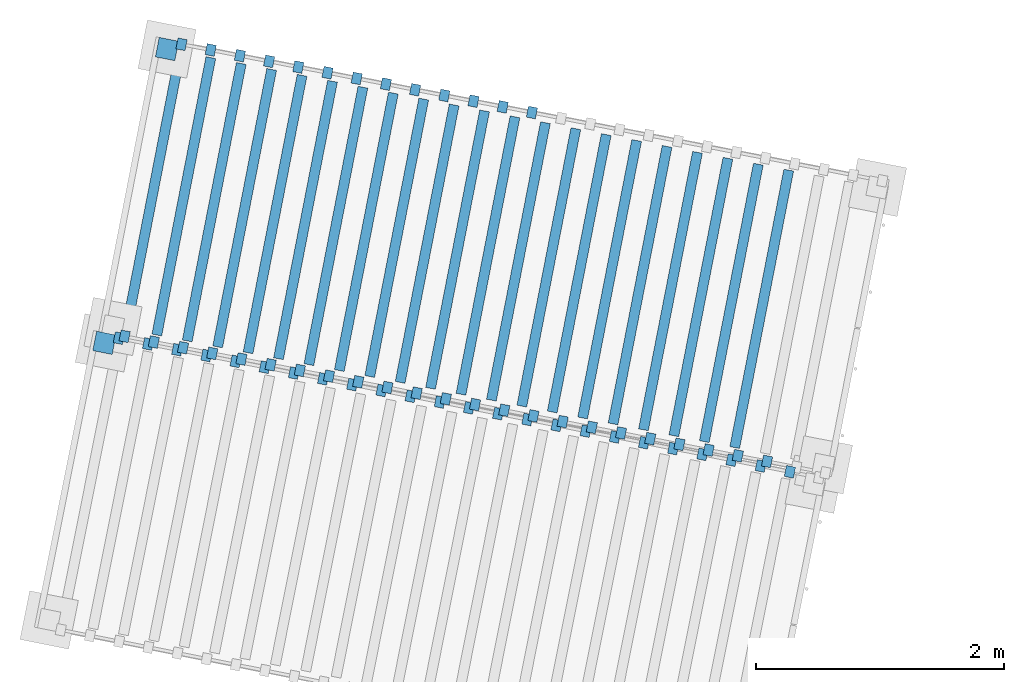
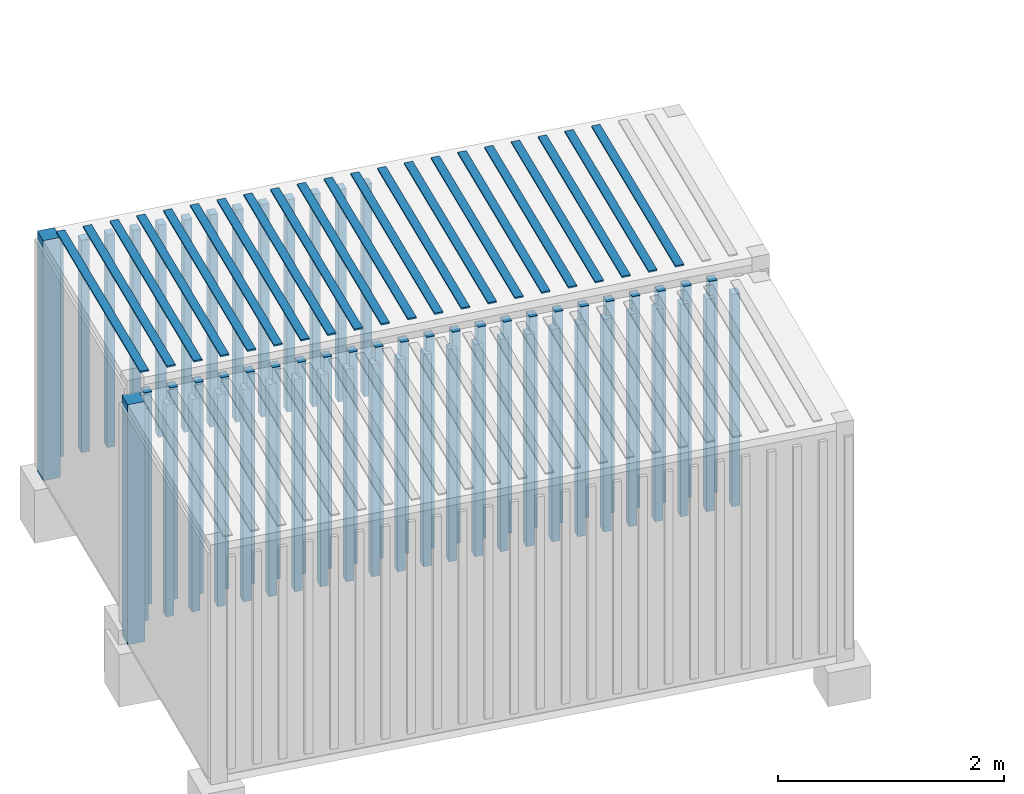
# One storey, part 82 of 131: 83 members, 2 elements without a shape of their own.
"""IFC4 building model written with IfcOpenShell, lengths in metres."""

import ifcopenshell
import ifcopenshell.guid

model = None  # the IFC model being written
_history = None  # IfcOwnerHistory: only IFC2X3 demands one
_inside = {}  # id of a spatial element -> (the spatial element, [elements in it])
_under = {}  # id of a project, library or spatial element -> (it, [spatial elements below it])
_declared = {}  # id of a project -> (the project, [libraries it declares])
_typed = {}  # id of a type object -> (the type object, [elements of that type])
_made_of = {}  # id of a material, layer set ... -> (it, [elements and type objects made of it])


def new_model(schema):
    """Start an empty IFC model of exactly this schema.

    Asked for "IFC4X3", IfcOpenShell would pick the latest addendum, in which some entities
    have other attributes; the version numbers below select the first issue.
    IFC2X3 requires an IfcOwnerHistory on every rooted entity: one is made here for all.
    """
    global model, _history
    if schema == "IFC4X3":
        model = ifcopenshell.file(schema_version=(4, 3, 0, 0))
    else:
        model = ifcopenshell.file(schema=schema)
    _inside.clear()
    _under.clear()
    _declared.clear()
    _typed.clear()
    _made_of.clear()
    _history = None
    if model.schema == "IFC2X3":
        org = make("IfcOrganization", Name="unknown")
        user = make(
            "IfcPersonAndOrganization",
            ThePerson=make("IfcPerson", FamilyName="unknown"),
            TheOrganization=org,
        )
        app = make(
            "IfcApplication",
            ApplicationDeveloper=org,
            Version="unknown",
            ApplicationFullName="unknown",
            ApplicationIdentifier="unknown",
        )
        _history = make(
            "IfcOwnerHistory",
            OwningUser=user,
            OwningApplication=app,
            ChangeAction="ADDED",
            CreationDate=0,
        )
    return model


def make(cls, **values):
    """One entity of the class cls with the attributes given. An attribute that is None is left unset."""
    return model.create_entity(
        cls, **{name: value for name, value in values.items() if value is not None}
    )


def rooted(cls, **values):
    """An entity with a GlobalId (a new one), such as an element, a storey or a relation."""
    return make(cls, GlobalId=ifcopenshell.guid.new(), OwnerHistory=_history, **values)


def si_unit(unit_type, name, prefix=None):
    """IfcSIUnit, for example si_unit("LENGTHUNIT", "METRE", prefix="MILLI")."""
    return make("IfcSIUnit", UnitType=unit_type, Prefix=prefix, Name=name)


def assignment(units):
    """IfcUnitAssignment: the units of a project."""
    return None if units is None else make("IfcUnitAssignment", Units=units)


def point(xyz):
    """IfcCartesianPoint."""
    return None if xyz is None else make("IfcCartesianPoint", Coordinates=xyz)


def direction(xyz):
    """IfcDirection."""
    return None if xyz is None else make("IfcDirection", DirectionRatios=xyz)


def frame(location, z_axis=None, x_axis=None):
    """IfcAxis2Placement3D, a coordinate frame: its origin and axes. An axis left out is left unset."""
    return make(
        "IfcAxis2Placement3D",
        Location=point(location),
        Axis=direction(z_axis),
        RefDirection=direction(x_axis),
    )


def origin_with_axes():
    """The frame at (0, 0, 0) with the z axis (0, 0, 1) and the x axis (1, 0, 0) written out."""
    return frame((0.0, 0.0, 0.0), z_axis=(0.0, 0.0, 1.0), x_axis=(1.0, 0.0, 0.0))


def place(relative_to, where):
    """IfcLocalPlacement: puts the frame where relative to a parent placement (None: the world)."""
    return make(
        "IfcLocalPlacement", PlacementRelTo=relative_to, RelativePlacement=where
    )


def context(
    kind, dimensions, precision=None, world=None, true_north=None, identifier=None
):
    """IfcGeometricRepresentationContext, for example the 3D "Model" context."""
    return make(
        "IfcGeometricRepresentationContext",
        ContextIdentifier=identifier,
        ContextType=kind,
        CoordinateSpaceDimension=dimensions,
        Precision=precision,
        WorldCoordinateSystem=world,
        TrueNorth=true_north,
    )


def subcontext(parent, identifier, kind, view, scale=None):
    """IfcGeometricRepresentationSubContext, for example "Body" below "Model"."""
    return make(
        "IfcGeometricRepresentationSubContext",
        ContextIdentifier=identifier,
        ContextType=kind,
        ParentContext=parent,
        TargetScale=scale,
        TargetView=view,
    )


def project(units=None, contexts=None):
    """IfcProject with its units and contexts."""
    return rooted(
        "IfcProject",
        Name="project",
        RepresentationContexts=contexts,
        UnitsInContext=assignment(units),
    )


def spatial(cls, under=None, at=None, **own):
    """A site, building, storey or space (cls), placed at a placement, below another one or the project."""
    s = rooted(cls, ObjectPlacement=at, **own)
    if under is not None:
        _under.setdefault(under.id(), (under, []))[1].append(s)
    return s


def polyline(points):
    """IfcPolyline through the points."""
    return make("IfcPolyline", Points=[point(p) for p in points])


def outline(outer, holes=None, kind="AREA"):
    """IfcArbitraryClosedProfileDef: a profile drawn as a closed curve; with holes, ...WithVoids."""
    if holes is None:
        return make("IfcArbitraryClosedProfileDef", ProfileType=kind, OuterCurve=outer)
    return make(
        "IfcArbitraryProfileDefWithVoids",
        ProfileType=kind,
        OuterCurve=outer,
        InnerCurves=holes,
    )


def extrude(swept, where, along, depth):
    """IfcExtrudedAreaSolid: the profile swept, set in the frame where, extruded along a direction by depth."""
    return make(
        "IfcExtrudedAreaSolid",
        SweptArea=swept,
        Position=where,
        ExtrudedDirection=direction(along),
        Depth=depth,
    )


def shape(context_of_items, identifier, shape_type, items):
    """IfcShapeRepresentation: the items that make up one representation, for example the "Body"."""
    return make(
        "IfcShapeRepresentation",
        ContextOfItems=context_of_items,
        RepresentationIdentifier=identifier,
        RepresentationType=shape_type,
        Items=items,
    )


def material(Name=None, Category=None):
    """IfcMaterial."""
    return make("IfcMaterial", Name=Name, Category=Category)


def made_of(thing, what):
    """Note that an element or type object is made of a material, layer set ...; save() writes the relation."""
    if what is not None:
        _made_of.setdefault(what.id(), (what, []))[1].append(thing)
    return thing


def element(
    cls,
    number,
    at=None,
    inside=None,
    cuts=None,
    type_object=None,
    material=None,
    context=None,
    identifier="Body",
    shape_type=None,
    held_by="IfcProductDefinitionShape",
    body=None,
    shapes=None,
    **own,
):
    """One element of the class cls, such as IfcWall. Its Tag is "e" and its number.

    at: its placement. inside: the storey or other place that contains it. cuts: it is an
    opening in that element (IfcRelVoidsElement). A single representation is given by context,
    identifier, shape_type and body (its items); several are given by shapes. held_by: the class
    of the entity that holds the representations. save() writes the other relations.
    """
    e = rooted(cls, Tag="e%d" % number, ObjectPlacement=at, **own)
    if body is not None:
        shapes = [shape(context, identifier, shape_type, body)]
    if shapes is not None:
        e.Representation = make(held_by, Representations=shapes)
    if inside is not None:
        _inside.setdefault(inside.id(), (inside, []))[1].append(e)
    if cuts is not None:
        rooted(
            "IfcRelVoidsElement", RelatingBuildingElement=cuts, RelatedOpeningElement=e
        )
    if type_object is not None:
        _typed.setdefault(type_object.id(), (type_object, []))[1].append(e)
    return made_of(e, material)


def aggregate(whole, parts):
    """IfcRelAggregates: a whole, such as a stair, and the parts it consists of."""
    return rooted("IfcRelAggregates", RelatingObject=whole, RelatedObjects=parts)


def save(model, path):
    """Write the relations noted so far, then the file.

    IfcRelAggregates (storeys below a building ...), IfcRelContainedInSpatialStructure (elements
    in a storey), IfcRelDefinesByType, IfcRelAssociatesMaterial and IfcRelDeclares: one each for
    every whole, place, type object, material and project.
    """
    for whole, parts in _under.values():
        aggregate(whole, parts)
    for where, things in _inside.values():
        rooted(
            "IfcRelContainedInSpatialStructure",
            RelatedElements=things,
            RelatingStructure=where,
        )
    for kind, things in _typed.values():
        rooted("IfcRelDefinesByType", RelatedObjects=things, RelatingType=kind)
    for what, things in _made_of.values():
        rooted("IfcRelAssociatesMaterial", RelatedObjects=things, RelatingMaterial=what)
    for by, libraries in _declared.values():
        rooted("IfcRelDeclares", RelatingContext=by, RelatedDefinitions=libraries)
    model.write(path)


model = new_model("IFC4")

# Units and contexts
model_context = context("Model", 3, precision=1e-05, world=origin_with_axes(), true_north=direction((0.0, 1.0)))
body_context = subcontext(model_context, "Body", "Model", "MODEL_VIEW")
ifc_project = project(units=[si_unit("AREAUNIT", "SQUARE_METRE"), si_unit("VOLUMEUNIT", "CUBIC_METRE"), si_unit("LENGTHUNIT", "METRE")], contexts=[model_context])

# Site, building, storey
site_placement = place(None, origin_with_axes())
site = spatial("IfcSite", under=ifc_project, at=site_placement, Name="Lares · Rua das Mercês · artigo 4771")
building_placement = place(site_placement, frame((15.0, 9.7, 14.65), z_axis=(0.0, 0.0, 1.0), x_axis=(0.989015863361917, -0.147809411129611, 0.0)))
building = spatial("IfcBuilding", under=site, at=building_placement, Name="Casa Sobreposta")
storey_placement = place(building_placement, origin_with_axes())
storey = spatial("IfcBuildingStorey", under=building, at=storey_placement, Name="00 · Habitação e estacionamento", Elevation=14.65)

# Assembly, members
assembly_1_placement = place(storey_placement, frame((-14.4335953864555, 9.04888612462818, 0.0), z_axis=(0.0, 0.0, 1.0), x_axis=(0.999032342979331, -0.0439815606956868, 0.0)))
assembly_1 = element("IfcElementAssembly", 1, at=assembly_1_placement, inside=storey, Name="Contentor existente 1 · 6 m", ObjectType="EXISTING_SHIPPING_CONTAINER", PredefinedType="USERDEFINED")
ifc_material_1 = material(Name="Contentor · pintura 1", Category="steel")
member_1_placement = place(assembly_1_placement, frame((0.0, 0.0, -1.01314181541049), z_axis=(0.0, 0.0, 1.0), x_axis=(1.0, 0.0, 0.0)))
member_1 = element("IfcMember", 2, at=member_1_placement, material=ifc_material_1, Name="Contentor · canto", context=body_context, shape_type="SweptSolid", body=[
    extrude(outline(polyline([(0.16, 2.28), (0.16, 2.44), (0.0, 2.44), (0.0, 2.28), (0.16, 2.28)])), origin_with_axes(), (0.0, 0.0, 1.0), 2.59),
])
member_2_placement = place(assembly_1_placement, frame((0.0, 0.0, -0.863141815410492), z_axis=(0.0, 0.0, 1.0), x_axis=(1.0, 0.0, 0.0)))
member_2 = element("IfcMember", 3, at=member_2_placement, material=ifc_material_1, Name="Contentor · nervura lateral", context=body_context, shape_type="SweptSolid", body=[
    extrude(outline(polyline([(0.225, -0.025), (0.225, 0.065), (0.15, 0.065), (0.15, -0.025), (0.225, -0.025)])), origin_with_axes(), (0.0, 0.0, 1.0), 2.29),
])
member_3_placement = place(assembly_1_placement, frame((0.0, 0.0, -0.863141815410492), z_axis=(0.0, 0.0, 1.0), x_axis=(1.0, 0.0, 0.0)))
member_3 = element("IfcMember", 4, at=member_3_placement, material=ifc_material_1, Name="Contentor · nervura lateral", context=body_context, shape_type="SweptSolid", body=[
    extrude(outline(polyline([(0.465, -0.025), (0.465, 0.065), (0.39, 0.065), (0.39, -0.025), (0.465, -0.025)])), origin_with_axes(), (0.0, 0.0, 1.0), 2.29),
])
member_4_placement = place(assembly_1_placement, frame((0.0, 0.0, -0.863141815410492), z_axis=(0.0, 0.0, 1.0), x_axis=(1.0, 0.0, 0.0)))
member_4 = element("IfcMember", 5, at=member_4_placement, material=ifc_material_1, Name="Contentor · nervura lateral", context=body_context, shape_type="SweptSolid", body=[
    extrude(outline(polyline([(0.705, -0.025), (0.705, 0.065), (0.63, 0.065), (0.63, -0.025), (0.705, -0.025)])), origin_with_axes(), (0.0, 0.0, 1.0), 2.29),
])
member_5_placement = place(assembly_1_placement, frame((0.0, 0.0, -0.863141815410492), z_axis=(0.0, 0.0, 1.0), x_axis=(1.0, 0.0, 0.0)))
member_5 = element("IfcMember", 6, at=member_5_placement, material=ifc_material_1, Name="Contentor · nervura lateral", context=body_context, shape_type="SweptSolid", body=[
    extrude(outline(polyline([(0.945, -0.025), (0.945, 0.065), (0.87, 0.065), (0.87, -0.025), (0.945, -0.025)])), origin_with_axes(), (0.0, 0.0, 1.0), 2.29),
])
member_6_placement = place(assembly_1_placement, frame((0.0, 0.0, -0.863141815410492), z_axis=(0.0, 0.0, 1.0), x_axis=(1.0, 0.0, 0.0)))
member_6 = element("IfcMember", 7, at=member_6_placement, material=ifc_material_1, Name="Contentor · nervura lateral", context=body_context, shape_type="SweptSolid", body=[
    extrude(outline(polyline([(1.185, -0.025), (1.185, 0.065), (1.11, 0.065), (1.11, -0.025), (1.185, -0.025)])), origin_with_axes(), (0.0, 0.0, 1.0), 2.29),
])
member_7_placement = place(assembly_1_placement, frame((0.0, 0.0, -0.863141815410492), z_axis=(0.0, 0.0, 1.0), x_axis=(1.0, 0.0, 0.0)))
member_7 = element("IfcMember", 8, at=member_7_placement, material=ifc_material_1, Name="Contentor · nervura lateral", context=body_context, shape_type="SweptSolid", body=[
    extrude(outline(polyline([(1.425, -0.025), (1.425, 0.065), (1.35, 0.065), (1.35, -0.025), (1.425, -0.025)])), origin_with_axes(), (0.0, 0.0, 1.0), 2.29),
])
member_8_placement = place(assembly_1_placement, frame((0.0, 0.0, -0.863141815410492), z_axis=(0.0, 0.0, 1.0), x_axis=(1.0, 0.0, 0.0)))
member_8 = element("IfcMember", 9, at=member_8_placement, material=ifc_material_1, Name="Contentor · nervura lateral", context=body_context, shape_type="SweptSolid", body=[
    extrude(outline(polyline([(1.665, -0.025), (1.665, 0.065), (1.59, 0.065), (1.59, -0.025), (1.665, -0.025)])), origin_with_axes(), (0.0, 0.0, 1.0), 2.29),
])
member_9_placement = place(assembly_1_placement, frame((0.0, 0.0, -0.863141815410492), z_axis=(0.0, 0.0, 1.0), x_axis=(1.0, 0.0, 0.0)))
member_9 = element("IfcMember", 10, at=member_9_placement, material=ifc_material_1, Name="Contentor · nervura lateral", context=body_context, shape_type="SweptSolid", body=[
    extrude(outline(polyline([(1.905, -0.025), (1.905, 0.065), (1.83, 0.065), (1.83, -0.025), (1.905, -0.025)])), origin_with_axes(), (0.0, 0.0, 1.0), 2.29),
])
member_10_placement = place(assembly_1_placement, frame((0.0, 0.0, -0.863141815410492), z_axis=(0.0, 0.0, 1.0), x_axis=(1.0, 0.0, 0.0)))
member_10 = element("IfcMember", 11, at=member_10_placement, material=ifc_material_1, Name="Contentor · nervura lateral", context=body_context, shape_type="SweptSolid", body=[
    extrude(outline(polyline([(2.145, -0.025), (2.145, 0.065), (2.07, 0.065), (2.07, -0.025), (2.145, -0.025)])), origin_with_axes(), (0.0, 0.0, 1.0), 2.29),
])
member_11_placement = place(assembly_1_placement, frame((0.0, 0.0, -0.863141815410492), z_axis=(0.0, 0.0, 1.0), x_axis=(1.0, 0.0, 0.0)))
member_11 = element("IfcMember", 12, at=member_11_placement, material=ifc_material_1, Name="Contentor · nervura lateral", context=body_context, shape_type="SweptSolid", body=[
    extrude(outline(polyline([(2.385, -0.025), (2.385, 0.065), (2.31, 0.065), (2.31, -0.025), (2.385, -0.025)])), origin_with_axes(), (0.0, 0.0, 1.0), 2.29),
])
member_12_placement = place(assembly_1_placement, frame((0.0, 0.0, -0.863141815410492), z_axis=(0.0, 0.0, 1.0), x_axis=(1.0, 0.0, 0.0)))
member_12 = element("IfcMember", 13, at=member_12_placement, material=ifc_material_1, Name="Contentor · nervura lateral", context=body_context, shape_type="SweptSolid", body=[
    extrude(outline(polyline([(2.625, -0.025), (2.625, 0.065), (2.55, 0.065), (2.55, -0.025), (2.625, -0.025)])), origin_with_axes(), (0.0, 0.0, 1.0), 2.29),
])
member_13_placement = place(assembly_1_placement, frame((0.0, 0.0, -0.863141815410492), z_axis=(0.0, 0.0, 1.0), x_axis=(1.0, 0.0, 0.0)))
member_13 = element("IfcMember", 14, at=member_13_placement, material=ifc_material_1, Name="Contentor · nervura lateral", context=body_context, shape_type="SweptSolid", body=[
    extrude(outline(polyline([(2.865, -0.025), (2.865, 0.065), (2.79, 0.065), (2.79, -0.025), (2.865, -0.025)])), origin_with_axes(), (0.0, 0.0, 1.0), 2.29),
])
member_14_placement = place(assembly_1_placement, frame((0.0, 0.0, -0.863141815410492), z_axis=(0.0, 0.0, 1.0), x_axis=(1.0, 0.0, 0.0)))
member_14 = element("IfcMember", 15, at=member_14_placement, material=ifc_material_1, Name="Contentor · nervura lateral", context=body_context, shape_type="SweptSolid", body=[
    extrude(outline(polyline([(3.105, -0.025), (3.105, 0.065), (3.03, 0.065), (3.03, -0.025), (3.105, -0.025)])), origin_with_axes(), (0.0, 0.0, 1.0), 2.29),
])
member_15_placement = place(assembly_1_placement, frame((0.0, 0.0, -0.863141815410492), z_axis=(0.0, 0.0, 1.0), x_axis=(1.0, 0.0, 0.0)))
member_15 = element("IfcMember", 16, at=member_15_placement, material=ifc_material_1, Name="Contentor · nervura lateral", context=body_context, shape_type="SweptSolid", body=[
    extrude(outline(polyline([(3.345, -0.025), (3.345, 0.065), (3.27, 0.065), (3.27, -0.025), (3.345, -0.025)])), origin_with_axes(), (0.0, 0.0, 1.0), 2.29),
])
member_16_placement = place(assembly_1_placement, frame((0.0, 0.0, -0.863141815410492), z_axis=(0.0, 0.0, 1.0), x_axis=(1.0, 0.0, 0.0)))
member_16 = element("IfcMember", 17, at=member_16_placement, material=ifc_material_1, Name="Contentor · nervura lateral", context=body_context, shape_type="SweptSolid", body=[
    extrude(outline(polyline([(3.585, -0.025), (3.585, 0.065), (3.51, 0.065), (3.51, -0.025), (3.585, -0.025)])), origin_with_axes(), (0.0, 0.0, 1.0), 2.29),
])
member_17_placement = place(assembly_1_placement, frame((0.0, 0.0, -0.863141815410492), z_axis=(0.0, 0.0, 1.0), x_axis=(1.0, 0.0, 0.0)))
member_17 = element("IfcMember", 18, at=member_17_placement, material=ifc_material_1, Name="Contentor · nervura lateral", context=body_context, shape_type="SweptSolid", body=[
    extrude(outline(polyline([(3.825, -0.025), (3.825, 0.065), (3.75, 0.065), (3.75, -0.025), (3.825, -0.025)])), origin_with_axes(), (0.0, 0.0, 1.0), 2.29),
])
member_18_placement = place(assembly_1_placement, frame((0.0, 0.0, -0.863141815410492), z_axis=(0.0, 0.0, 1.0), x_axis=(1.0, 0.0, 0.0)))
member_18 = element("IfcMember", 19, at=member_18_placement, material=ifc_material_1, Name="Contentor · nervura lateral", context=body_context, shape_type="SweptSolid", body=[
    extrude(outline(polyline([(4.065, -0.025), (4.065, 0.065), (3.99, 0.065), (3.99, -0.025), (4.065, -0.025)])), origin_with_axes(), (0.0, 0.0, 1.0), 2.29),
])
member_19_placement = place(assembly_1_placement, frame((0.0, 0.0, -0.863141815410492), z_axis=(0.0, 0.0, 1.0), x_axis=(1.0, 0.0, 0.0)))
member_19 = element("IfcMember", 20, at=member_19_placement, material=ifc_material_1, Name="Contentor · nervura lateral", context=body_context, shape_type="SweptSolid", body=[
    extrude(outline(polyline([(4.305, -0.025), (4.305, 0.065), (4.23, 0.065), (4.23, -0.025), (4.305, -0.025)])), origin_with_axes(), (0.0, 0.0, 1.0), 2.29),
])
member_20_placement = place(assembly_1_placement, frame((0.0, 0.0, -0.863141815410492), z_axis=(0.0, 0.0, 1.0), x_axis=(1.0, 0.0, 0.0)))
member_20 = element("IfcMember", 21, at=member_20_placement, material=ifc_material_1, Name="Contentor · nervura lateral", context=body_context, shape_type="SweptSolid", body=[
    extrude(outline(polyline([(4.545, -0.025), (4.545, 0.065), (4.47, 0.065), (4.47, -0.025), (4.545, -0.025)])), origin_with_axes(), (0.0, 0.0, 1.0), 2.29),
])
member_21_placement = place(assembly_1_placement, frame((0.0, 0.0, -0.863141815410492), z_axis=(0.0, 0.0, 1.0), x_axis=(1.0, 0.0, 0.0)))
member_21 = element("IfcMember", 22, at=member_21_placement, material=ifc_material_1, Name="Contentor · nervura lateral", context=body_context, shape_type="SweptSolid", body=[
    extrude(outline(polyline([(4.785, -0.025), (4.785, 0.065), (4.71, 0.065), (4.71, -0.025), (4.785, -0.025)])), origin_with_axes(), (0.0, 0.0, 1.0), 2.29),
])
member_22_placement = place(assembly_1_placement, frame((0.0, 0.0, -0.863141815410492), z_axis=(0.0, 0.0, 1.0), x_axis=(1.0, 0.0, 0.0)))
member_22 = element("IfcMember", 23, at=member_22_placement, material=ifc_material_1, Name="Contentor · nervura lateral", context=body_context, shape_type="SweptSolid", body=[
    extrude(outline(polyline([(5.025, -0.025), (5.025, 0.065), (4.95, 0.065), (4.95, -0.025), (5.025, -0.025)])), origin_with_axes(), (0.0, 0.0, 1.0), 2.29),
])
member_23_placement = place(assembly_1_placement, frame((0.0, 0.0, -0.863141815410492), z_axis=(0.0, 0.0, 1.0), x_axis=(1.0, 0.0, 0.0)))
member_23 = element("IfcMember", 24, at=member_23_placement, material=ifc_material_1, Name="Contentor · nervura lateral", context=body_context, shape_type="SweptSolid", body=[
    extrude(outline(polyline([(5.265, -0.025), (5.265, 0.065), (5.19, 0.065), (5.19, -0.025), (5.265, -0.025)])), origin_with_axes(), (0.0, 0.0, 1.0), 2.29),
])
member_24_placement = place(assembly_1_placement, frame((0.0, 0.0, -0.863141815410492), z_axis=(0.0, 0.0, 1.0), x_axis=(1.0, 0.0, 0.0)))
member_24 = element("IfcMember", 25, at=member_24_placement, material=ifc_material_1, Name="Contentor · nervura lateral", context=body_context, shape_type="SweptSolid", body=[
    extrude(outline(polyline([(5.505, -0.025), (5.505, 0.065), (5.43, 0.065), (5.43, -0.025), (5.505, -0.025)])), origin_with_axes(), (0.0, 0.0, 1.0), 2.29),
])
member_25_placement = place(assembly_1_placement, frame((0.0, 0.0, -0.863141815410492), z_axis=(0.0, 0.0, 1.0), x_axis=(1.0, 0.0, 0.0)))
member_25 = element("IfcMember", 26, at=member_25_placement, material=ifc_material_1, Name="Contentor · nervura lateral", context=body_context, shape_type="SweptSolid", body=[
    extrude(outline(polyline([(0.225, 2.375), (0.225, 2.465), (0.15, 2.465), (0.15, 2.375), (0.225, 2.375)])), origin_with_axes(), (0.0, 0.0, 1.0), 2.29),
])
member_26_placement = place(assembly_1_placement, frame((0.0, 0.0, -0.863141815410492), z_axis=(0.0, 0.0, 1.0), x_axis=(1.0, 0.0, 0.0)))
member_26 = element("IfcMember", 27, at=member_26_placement, material=ifc_material_1, Name="Contentor · nervura lateral", context=body_context, shape_type="SweptSolid", body=[
    extrude(outline(polyline([(0.465, 2.375), (0.465, 2.465), (0.39, 2.465), (0.39, 2.375), (0.465, 2.375)])), origin_with_axes(), (0.0, 0.0, 1.0), 2.29),
])
member_27_placement = place(assembly_1_placement, frame((0.0, 0.0, -0.863141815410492), z_axis=(0.0, 0.0, 1.0), x_axis=(1.0, 0.0, 0.0)))
member_27 = element("IfcMember", 28, at=member_27_placement, material=ifc_material_1, Name="Contentor · nervura lateral", context=body_context, shape_type="SweptSolid", body=[
    extrude(outline(polyline([(0.705, 2.375), (0.705, 2.465), (0.63, 2.465), (0.63, 2.375), (0.705, 2.375)])), origin_with_axes(), (0.0, 0.0, 1.0), 2.29),
])
member_28_placement = place(assembly_1_placement, frame((0.0, 0.0, -0.863141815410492), z_axis=(0.0, 0.0, 1.0), x_axis=(1.0, 0.0, 0.0)))
member_28 = element("IfcMember", 29, at=member_28_placement, material=ifc_material_1, Name="Contentor · nervura lateral", context=body_context, shape_type="SweptSolid", body=[
    extrude(outline(polyline([(0.945, 2.375), (0.945, 2.465), (0.87, 2.465), (0.87, 2.375), (0.945, 2.375)])), origin_with_axes(), (0.0, 0.0, 1.0), 2.29),
])
member_29_placement = place(assembly_1_placement, frame((0.0, 0.0, -0.863141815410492), z_axis=(0.0, 0.0, 1.0), x_axis=(1.0, 0.0, 0.0)))
member_29 = element("IfcMember", 30, at=member_29_placement, material=ifc_material_1, Name="Contentor · nervura lateral", context=body_context, shape_type="SweptSolid", body=[
    extrude(outline(polyline([(1.185, 2.375), (1.185, 2.465), (1.11, 2.465), (1.11, 2.375), (1.185, 2.375)])), origin_with_axes(), (0.0, 0.0, 1.0), 2.29),
])
member_30_placement = place(assembly_1_placement, frame((0.0, 0.0, -0.863141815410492), z_axis=(0.0, 0.0, 1.0), x_axis=(1.0, 0.0, 0.0)))
member_30 = element("IfcMember", 31, at=member_30_placement, material=ifc_material_1, Name="Contentor · nervura lateral", context=body_context, shape_type="SweptSolid", body=[
    extrude(outline(polyline([(1.425, 2.375), (1.425, 2.465), (1.35, 2.465), (1.35, 2.375), (1.425, 2.375)])), origin_with_axes(), (0.0, 0.0, 1.0), 2.29),
])
member_31_placement = place(assembly_1_placement, frame((0.0, 0.0, -0.863141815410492), z_axis=(0.0, 0.0, 1.0), x_axis=(1.0, 0.0, 0.0)))
member_31 = element("IfcMember", 32, at=member_31_placement, material=ifc_material_1, Name="Contentor · nervura lateral", context=body_context, shape_type="SweptSolid", body=[
    extrude(outline(polyline([(1.665, 2.375), (1.665, 2.465), (1.59, 2.465), (1.59, 2.375), (1.665, 2.375)])), origin_with_axes(), (0.0, 0.0, 1.0), 2.29),
])
member_32_placement = place(assembly_1_placement, frame((0.0, 0.0, -0.863141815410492), z_axis=(0.0, 0.0, 1.0), x_axis=(1.0, 0.0, 0.0)))
member_32 = element("IfcMember", 33, at=member_32_placement, material=ifc_material_1, Name="Contentor · nervura lateral", context=body_context, shape_type="SweptSolid", body=[
    extrude(outline(polyline([(1.905, 2.375), (1.905, 2.465), (1.83, 2.465), (1.83, 2.375), (1.905, 2.375)])), origin_with_axes(), (0.0, 0.0, 1.0), 2.29),
])
member_33_placement = place(assembly_1_placement, frame((0.0, 0.0, -0.863141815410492), z_axis=(0.0, 0.0, 1.0), x_axis=(1.0, 0.0, 0.0)))
member_33 = element("IfcMember", 34, at=member_33_placement, material=ifc_material_1, Name="Contentor · nervura lateral", context=body_context, shape_type="SweptSolid", body=[
    extrude(outline(polyline([(2.145, 2.375), (2.145, 2.465), (2.07, 2.465), (2.07, 2.375), (2.145, 2.375)])), origin_with_axes(), (0.0, 0.0, 1.0), 2.29),
])
member_34_placement = place(assembly_1_placement, frame((0.0, 0.0, -0.863141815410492), z_axis=(0.0, 0.0, 1.0), x_axis=(1.0, 0.0, 0.0)))
member_34 = element("IfcMember", 35, at=member_34_placement, material=ifc_material_1, Name="Contentor · nervura lateral", context=body_context, shape_type="SweptSolid", body=[
    extrude(outline(polyline([(2.385, 2.375), (2.385, 2.465), (2.31, 2.465), (2.31, 2.375), (2.385, 2.375)])), origin_with_axes(), (0.0, 0.0, 1.0), 2.29),
])
member_35_placement = place(assembly_1_placement, frame((0.0, 0.0, -0.863141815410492), z_axis=(0.0, 0.0, 1.0), x_axis=(1.0, 0.0, 0.0)))
member_35 = element("IfcMember", 36, at=member_35_placement, material=ifc_material_1, Name="Contentor · nervura lateral", context=body_context, shape_type="SweptSolid", body=[
    extrude(outline(polyline([(2.625, 2.375), (2.625, 2.465), (2.55, 2.465), (2.55, 2.375), (2.625, 2.375)])), origin_with_axes(), (0.0, 0.0, 1.0), 2.29),
])
member_36_placement = place(assembly_1_placement, frame((0.0, 0.0, -0.863141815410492), z_axis=(0.0, 0.0, 1.0), x_axis=(1.0, 0.0, 0.0)))
member_36 = element("IfcMember", 37, at=member_36_placement, material=ifc_material_1, Name="Contentor · nervura lateral", context=body_context, shape_type="SweptSolid", body=[
    extrude(outline(polyline([(2.865, 2.375), (2.865, 2.465), (2.79, 2.465), (2.79, 2.375), (2.865, 2.375)])), origin_with_axes(), (0.0, 0.0, 1.0), 2.29),
])
member_37_placement = place(assembly_1_placement, frame((0.0, 0.0, -0.863141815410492), z_axis=(0.0, 0.0, 1.0), x_axis=(1.0, 0.0, 0.0)))
member_37 = element("IfcMember", 38, at=member_37_placement, material=ifc_material_1, Name="Contentor · nervura lateral", context=body_context, shape_type="SweptSolid", body=[
    extrude(outline(polyline([(3.105, 2.375), (3.105, 2.465), (3.03, 2.465), (3.03, 2.375), (3.105, 2.375)])), origin_with_axes(), (0.0, 0.0, 1.0), 2.29),
])
member_38_placement = place(assembly_1_placement, frame((0.0, 0.0, 1.57185818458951), z_axis=(0.0, 0.0, 1.0), x_axis=(1.0, 0.0, 0.0)))
member_38 = element("IfcMember", 39, at=member_38_placement, material=ifc_material_1, Name="Contentor · nervura cobertura", context=body_context, shape_type="SweptSolid", body=[
    extrude(outline(polyline([(0.23, 0.08), (0.23, 2.36), (0.15, 2.36), (0.15, 0.08), (0.23, 0.08)])), origin_with_axes(), (0.0, 0.0, 1.0), 0.018),
])
member_39_placement = place(assembly_1_placement, frame((0.0, 0.0, 1.57185818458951), z_axis=(0.0, 0.0, 1.0), x_axis=(1.0, 0.0, 0.0)))
member_39 = element("IfcMember", 40, at=member_39_placement, material=ifc_material_1, Name="Contentor · nervura cobertura", context=body_context, shape_type="SweptSolid", body=[
    extrude(outline(polyline([(0.48, 0.08), (0.48, 2.36), (0.4, 2.36), (0.4, 0.08), (0.48, 0.08)])), origin_with_axes(), (0.0, 0.0, 1.0), 0.018),
])
member_40_placement = place(assembly_1_placement, frame((0.0, 0.0, 1.57185818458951), z_axis=(0.0, 0.0, 1.0), x_axis=(1.0, 0.0, 0.0)))
member_40 = element("IfcMember", 41, at=member_40_placement, material=ifc_material_1, Name="Contentor · nervura cobertura", context=body_context, shape_type="SweptSolid", body=[
    extrude(outline(polyline([(0.73, 0.08), (0.73, 2.36), (0.65, 2.36), (0.65, 0.08), (0.73, 0.08)])), origin_with_axes(), (0.0, 0.0, 1.0), 0.018),
])
member_41_placement = place(assembly_1_placement, frame((0.0, 0.0, 1.57185818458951), z_axis=(0.0, 0.0, 1.0), x_axis=(1.0, 0.0, 0.0)))
member_41 = element("IfcMember", 42, at=member_41_placement, material=ifc_material_1, Name="Contentor · nervura cobertura", context=body_context, shape_type="SweptSolid", body=[
    extrude(outline(polyline([(0.98, 0.08), (0.98, 2.36), (0.9, 2.36), (0.9, 0.08), (0.98, 0.08)])), origin_with_axes(), (0.0, 0.0, 1.0), 0.018),
])
member_42_placement = place(assembly_1_placement, frame((0.0, 0.0, 1.57185818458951), z_axis=(0.0, 0.0, 1.0), x_axis=(1.0, 0.0, 0.0)))
member_42 = element("IfcMember", 43, at=member_42_placement, material=ifc_material_1, Name="Contentor · nervura cobertura", context=body_context, shape_type="SweptSolid", body=[
    extrude(outline(polyline([(1.23, 0.08), (1.23, 2.36), (1.15, 2.36), (1.15, 0.08), (1.23, 0.08)])), origin_with_axes(), (0.0, 0.0, 1.0), 0.018),
])
member_43_placement = place(assembly_1_placement, frame((0.0, 0.0, 1.57185818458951), z_axis=(0.0, 0.0, 1.0), x_axis=(1.0, 0.0, 0.0)))
member_43 = element("IfcMember", 44, at=member_43_placement, material=ifc_material_1, Name="Contentor · nervura cobertura", context=body_context, shape_type="SweptSolid", body=[
    extrude(outline(polyline([(1.48, 0.08), (1.48, 2.36), (1.4, 2.36), (1.4, 0.08), (1.48, 0.08)])), origin_with_axes(), (0.0, 0.0, 1.0), 0.018),
])
member_44_placement = place(assembly_1_placement, frame((0.0, 0.0, 1.57185818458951), z_axis=(0.0, 0.0, 1.0), x_axis=(1.0, 0.0, 0.0)))
member_44 = element("IfcMember", 45, at=member_44_placement, material=ifc_material_1, Name="Contentor · nervura cobertura", context=body_context, shape_type="SweptSolid", body=[
    extrude(outline(polyline([(1.73, 0.08), (1.73, 2.36), (1.65, 2.36), (1.65, 0.08), (1.73, 0.08)])), origin_with_axes(), (0.0, 0.0, 1.0), 0.018),
])
member_45_placement = place(assembly_1_placement, frame((0.0, 0.0, 1.57185818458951), z_axis=(0.0, 0.0, 1.0), x_axis=(1.0, 0.0, 0.0)))
member_45 = element("IfcMember", 46, at=member_45_placement, material=ifc_material_1, Name="Contentor · nervura cobertura", context=body_context, shape_type="SweptSolid", body=[
    extrude(outline(polyline([(1.98, 0.08), (1.98, 2.36), (1.9, 2.36), (1.9, 0.08), (1.98, 0.08)])), origin_with_axes(), (0.0, 0.0, 1.0), 0.018),
])
member_46_placement = place(assembly_1_placement, frame((0.0, 0.0, 1.57185818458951), z_axis=(0.0, 0.0, 1.0), x_axis=(1.0, 0.0, 0.0)))
member_46 = element("IfcMember", 47, at=member_46_placement, material=ifc_material_1, Name="Contentor · nervura cobertura", context=body_context, shape_type="SweptSolid", body=[
    extrude(outline(polyline([(2.23, 0.08), (2.23, 2.36), (2.15, 2.36), (2.15, 0.08), (2.23, 0.08)])), origin_with_axes(), (0.0, 0.0, 1.0), 0.018),
])
member_47_placement = place(assembly_1_placement, frame((0.0, 0.0, 1.57185818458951), z_axis=(0.0, 0.0, 1.0), x_axis=(1.0, 0.0, 0.0)))
member_47 = element("IfcMember", 48, at=member_47_placement, material=ifc_material_1, Name="Contentor · nervura cobertura", context=body_context, shape_type="SweptSolid", body=[
    extrude(outline(polyline([(2.48, 0.08), (2.48, 2.36), (2.4, 2.36), (2.4, 0.08), (2.48, 0.08)])), origin_with_axes(), (0.0, 0.0, 1.0), 0.018),
])
member_48_placement = place(assembly_1_placement, frame((0.0, 0.0, 1.57185818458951), z_axis=(0.0, 0.0, 1.0), x_axis=(1.0, 0.0, 0.0)))
member_48 = element("IfcMember", 49, at=member_48_placement, material=ifc_material_1, Name="Contentor · nervura cobertura", context=body_context, shape_type="SweptSolid", body=[
    extrude(outline(polyline([(2.73, 0.08), (2.73, 2.36), (2.65, 2.36), (2.65, 0.08), (2.73, 0.08)])), origin_with_axes(), (0.0, 0.0, 1.0), 0.018),
])
member_49_placement = place(assembly_1_placement, frame((0.0, 0.0, 1.57185818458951), z_axis=(0.0, 0.0, 1.0), x_axis=(1.0, 0.0, 0.0)))
member_49 = element("IfcMember", 50, at=member_49_placement, material=ifc_material_1, Name="Contentor · nervura cobertura", context=body_context, shape_type="SweptSolid", body=[
    extrude(outline(polyline([(2.98, 0.08), (2.98, 2.36), (2.9, 2.36), (2.9, 0.08), (2.98, 0.08)])), origin_with_axes(), (0.0, 0.0, 1.0), 0.018),
])
member_50_placement = place(assembly_1_placement, frame((0.0, 0.0, 1.57185818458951), z_axis=(0.0, 0.0, 1.0), x_axis=(1.0, 0.0, 0.0)))
member_50 = element("IfcMember", 51, at=member_50_placement, material=ifc_material_1, Name="Contentor · nervura cobertura", context=body_context, shape_type="SweptSolid", body=[
    extrude(outline(polyline([(3.23, 0.08), (3.23, 2.36), (3.15, 2.36), (3.15, 0.08), (3.23, 0.08)])), origin_with_axes(), (0.0, 0.0, 1.0), 0.018),
])
member_51_placement = place(assembly_1_placement, frame((0.0, 0.0, 1.57185818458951), z_axis=(0.0, 0.0, 1.0), x_axis=(1.0, 0.0, 0.0)))
member_51 = element("IfcMember", 52, at=member_51_placement, material=ifc_material_1, Name="Contentor · nervura cobertura", context=body_context, shape_type="SweptSolid", body=[
    extrude(outline(polyline([(3.48, 0.08), (3.48, 2.36), (3.4, 2.36), (3.4, 0.08), (3.48, 0.08)])), origin_with_axes(), (0.0, 0.0, 1.0), 0.018),
])
member_52_placement = place(assembly_1_placement, frame((0.0, 0.0, 1.57185818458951), z_axis=(0.0, 0.0, 1.0), x_axis=(1.0, 0.0, 0.0)))
member_52 = element("IfcMember", 53, at=member_52_placement, material=ifc_material_1, Name="Contentor · nervura cobertura", context=body_context, shape_type="SweptSolid", body=[
    extrude(outline(polyline([(3.73, 0.08), (3.73, 2.36), (3.65, 2.36), (3.65, 0.08), (3.73, 0.08)])), origin_with_axes(), (0.0, 0.0, 1.0), 0.018),
])
member_53_placement = place(assembly_1_placement, frame((0.0, 0.0, 1.57185818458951), z_axis=(0.0, 0.0, 1.0), x_axis=(1.0, 0.0, 0.0)))
member_53 = element("IfcMember", 54, at=member_53_placement, material=ifc_material_1, Name="Contentor · nervura cobertura", context=body_context, shape_type="SweptSolid", body=[
    extrude(outline(polyline([(3.98, 0.08), (3.98, 2.36), (3.9, 2.36), (3.9, 0.08), (3.98, 0.08)])), origin_with_axes(), (0.0, 0.0, 1.0), 0.018),
])
member_54_placement = place(assembly_1_placement, frame((0.0, 0.0, 1.57185818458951), z_axis=(0.0, 0.0, 1.0), x_axis=(1.0, 0.0, 0.0)))
member_54 = element("IfcMember", 55, at=member_54_placement, material=ifc_material_1, Name="Contentor · nervura cobertura", context=body_context, shape_type="SweptSolid", body=[
    extrude(outline(polyline([(4.23, 0.08), (4.23, 2.36), (4.15, 2.36), (4.15, 0.08), (4.23, 0.08)])), origin_with_axes(), (0.0, 0.0, 1.0), 0.018),
])
member_55_placement = place(assembly_1_placement, frame((0.0, 0.0, 1.57185818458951), z_axis=(0.0, 0.0, 1.0), x_axis=(1.0, 0.0, 0.0)))
member_55 = element("IfcMember", 56, at=member_55_placement, material=ifc_material_1, Name="Contentor · nervura cobertura", context=body_context, shape_type="SweptSolid", body=[
    extrude(outline(polyline([(4.48, 0.08), (4.48, 2.36), (4.4, 2.36), (4.4, 0.08), (4.48, 0.08)])), origin_with_axes(), (0.0, 0.0, 1.0), 0.018),
])
member_56_placement = place(assembly_1_placement, frame((0.0, 0.0, 1.57185818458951), z_axis=(0.0, 0.0, 1.0), x_axis=(1.0, 0.0, 0.0)))
member_56 = element("IfcMember", 57, at=member_56_placement, material=ifc_material_1, Name="Contentor · nervura cobertura", context=body_context, shape_type="SweptSolid", body=[
    extrude(outline(polyline([(4.73, 0.08), (4.73, 2.36), (4.65, 2.36), (4.65, 0.08), (4.73, 0.08)])), origin_with_axes(), (0.0, 0.0, 1.0), 0.018),
])
member_57_placement = place(assembly_1_placement, frame((0.0, 0.0, 1.57185818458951), z_axis=(0.0, 0.0, 1.0), x_axis=(1.0, 0.0, 0.0)))
member_57 = element("IfcMember", 58, at=member_57_placement, material=ifc_material_1, Name="Contentor · nervura cobertura", context=body_context, shape_type="SweptSolid", body=[
    extrude(outline(polyline([(4.98, 0.08), (4.98, 2.36), (4.9, 2.36), (4.9, 0.08), (4.98, 0.08)])), origin_with_axes(), (0.0, 0.0, 1.0), 0.018),
])
member_58_placement = place(assembly_1_placement, frame((0.0, 0.0, 1.57185818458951), z_axis=(0.0, 0.0, 1.0), x_axis=(1.0, 0.0, 0.0)))
member_58 = element("IfcMember", 59, at=member_58_placement, material=ifc_material_1, Name="Contentor · nervura cobertura", context=body_context, shape_type="SweptSolid", body=[
    extrude(outline(polyline([(5.23, 0.08), (5.23, 2.36), (5.15, 2.36), (5.15, 0.08), (5.23, 0.08)])), origin_with_axes(), (0.0, 0.0, 1.0), 0.018),
])
aggregate(assembly_1, [member_1, member_2, member_3, member_4, member_5, member_6, member_7, member_8, member_9, member_10, member_11, member_12, member_13, member_14, member_15, member_16, member_17, member_18, member_19, member_20, member_21, member_22, member_23, member_24, member_25, member_26, member_27, member_28, member_29, member_30, member_31, member_32, member_33, member_34, member_35, member_36, member_37, member_38, member_39, member_40, member_41, member_42, member_43, member_44, member_45, member_46, member_47, member_48, member_49, member_50, member_51, member_52, member_53, member_54, member_55, member_56, member_57, member_58])

assembly_2_placement = place(storey_placement, frame((-14.5932944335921, 6.63122214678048, 0.0), z_axis=(0.0, 0.0, 1.0), x_axis=(0.998832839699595, -0.0483007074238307, 0.0)))
assembly_2 = element("IfcElementAssembly", 60, at=assembly_2_placement, inside=storey, Name="Contentor existente 2 · 6 m", ObjectType="EXISTING_SHIPPING_CONTAINER", PredefinedType="USERDEFINED")
ifc_material_2 = material(Name="Contentor · pintura 2", Category="steel")
member_59_placement = place(assembly_2_placement, frame((0.0, 0.0, -1.16875169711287), z_axis=(0.0, 0.0, 1.0), x_axis=(1.0, 0.0, 0.0)))
member_59 = element("IfcMember", 61, at=member_59_placement, material=ifc_material_2, Name="Contentor · canto", context=body_context, shape_type="SweptSolid", body=[
    extrude(outline(polyline([(0.16, 2.28), (0.16, 2.44), (0.0, 2.44), (0.0, 2.28), (0.16, 2.28)])), origin_with_axes(), (0.0, 0.0, 1.0), 2.59),
])
member_60_placement = place(assembly_2_placement, frame((0.0, 0.0, -1.01875169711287), z_axis=(0.0, 0.0, 1.0), x_axis=(1.0, 0.0, 0.0)))
member_60 = element("IfcMember", 62, at=member_60_placement, material=ifc_material_2, Name="Contentor · nervura lateral", context=body_context, shape_type="SweptSolid", body=[
    extrude(outline(polyline([(0.225, 2.375), (0.225, 2.465), (0.15, 2.465), (0.15, 2.375), (0.225, 2.375)])), origin_with_axes(), (0.0, 0.0, 1.0), 2.29),
])
member_61_placement = place(assembly_2_placement, frame((0.0, 0.0, -1.01875169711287), z_axis=(0.0, 0.0, 1.0), x_axis=(1.0, 0.0, 0.0)))
member_61 = element("IfcMember", 63, at=member_61_placement, material=ifc_material_2, Name="Contentor · nervura lateral", context=body_context, shape_type="SweptSolid", body=[
    extrude(outline(polyline([(0.465, 2.375), (0.465, 2.465), (0.39, 2.465), (0.39, 2.375), (0.465, 2.375)])), origin_with_axes(), (0.0, 0.0, 1.0), 2.29),
])
member_62_placement = place(assembly_2_placement, frame((0.0, 0.0, -1.01875169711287), z_axis=(0.0, 0.0, 1.0), x_axis=(1.0, 0.0, 0.0)))
member_62 = element("IfcMember", 64, at=member_62_placement, material=ifc_material_2, Name="Contentor · nervura lateral", context=body_context, shape_type="SweptSolid", body=[
    extrude(outline(polyline([(0.705, 2.375), (0.705, 2.465), (0.63, 2.465), (0.63, 2.375), (0.705, 2.375)])), origin_with_axes(), (0.0, 0.0, 1.0), 2.29),
])
member_63_placement = place(assembly_2_placement, frame((0.0, 0.0, -1.01875169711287), z_axis=(0.0, 0.0, 1.0), x_axis=(1.0, 0.0, 0.0)))
member_63 = element("IfcMember", 65, at=member_63_placement, material=ifc_material_2, Name="Contentor · nervura lateral", context=body_context, shape_type="SweptSolid", body=[
    extrude(outline(polyline([(0.945, 2.375), (0.945, 2.465), (0.87, 2.465), (0.87, 2.375), (0.945, 2.375)])), origin_with_axes(), (0.0, 0.0, 1.0), 2.29),
])
member_64_placement = place(assembly_2_placement, frame((0.0, 0.0, -1.01875169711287), z_axis=(0.0, 0.0, 1.0), x_axis=(1.0, 0.0, 0.0)))
member_64 = element("IfcMember", 66, at=member_64_placement, material=ifc_material_2, Name="Contentor · nervura lateral", context=body_context, shape_type="SweptSolid", body=[
    extrude(outline(polyline([(1.185, 2.375), (1.185, 2.465), (1.11, 2.465), (1.11, 2.375), (1.185, 2.375)])), origin_with_axes(), (0.0, 0.0, 1.0), 2.29),
])
member_65_placement = place(assembly_2_placement, frame((0.0, 0.0, -1.01875169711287), z_axis=(0.0, 0.0, 1.0), x_axis=(1.0, 0.0, 0.0)))
member_65 = element("IfcMember", 67, at=member_65_placement, material=ifc_material_2, Name="Contentor · nervura lateral", context=body_context, shape_type="SweptSolid", body=[
    extrude(outline(polyline([(1.425, 2.375), (1.425, 2.465), (1.35, 2.465), (1.35, 2.375), (1.425, 2.375)])), origin_with_axes(), (0.0, 0.0, 1.0), 2.29),
])
member_66_placement = place(assembly_2_placement, frame((0.0, 0.0, -1.01875169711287), z_axis=(0.0, 0.0, 1.0), x_axis=(1.0, 0.0, 0.0)))
member_66 = element("IfcMember", 68, at=member_66_placement, material=ifc_material_2, Name="Contentor · nervura lateral", context=body_context, shape_type="SweptSolid", body=[
    extrude(outline(polyline([(1.665, 2.375), (1.665, 2.465), (1.59, 2.465), (1.59, 2.375), (1.665, 2.375)])), origin_with_axes(), (0.0, 0.0, 1.0), 2.29),
])
member_67_placement = place(assembly_2_placement, frame((0.0, 0.0, -1.01875169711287), z_axis=(0.0, 0.0, 1.0), x_axis=(1.0, 0.0, 0.0)))
member_67 = element("IfcMember", 69, at=member_67_placement, material=ifc_material_2, Name="Contentor · nervura lateral", context=body_context, shape_type="SweptSolid", body=[
    extrude(outline(polyline([(1.905, 2.375), (1.905, 2.465), (1.83, 2.465), (1.83, 2.375), (1.905, 2.375)])), origin_with_axes(), (0.0, 0.0, 1.0), 2.29),
])
member_68_placement = place(assembly_2_placement, frame((0.0, 0.0, -1.01875169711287), z_axis=(0.0, 0.0, 1.0), x_axis=(1.0, 0.0, 0.0)))
member_68 = element("IfcMember", 70, at=member_68_placement, material=ifc_material_2, Name="Contentor · nervura lateral", context=body_context, shape_type="SweptSolid", body=[
    extrude(outline(polyline([(2.145, 2.375), (2.145, 2.465), (2.07, 2.465), (2.07, 2.375), (2.145, 2.375)])), origin_with_axes(), (0.0, 0.0, 1.0), 2.29),
])
member_69_placement = place(assembly_2_placement, frame((0.0, 0.0, -1.01875169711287), z_axis=(0.0, 0.0, 1.0), x_axis=(1.0, 0.0, 0.0)))
member_69 = element("IfcMember", 71, at=member_69_placement, material=ifc_material_2, Name="Contentor · nervura lateral", context=body_context, shape_type="SweptSolid", body=[
    extrude(outline(polyline([(2.385, 2.375), (2.385, 2.465), (2.31, 2.465), (2.31, 2.375), (2.385, 2.375)])), origin_with_axes(), (0.0, 0.0, 1.0), 2.29),
])
member_70_placement = place(assembly_2_placement, frame((0.0, 0.0, -1.01875169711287), z_axis=(0.0, 0.0, 1.0), x_axis=(1.0, 0.0, 0.0)))
member_70 = element("IfcMember", 72, at=member_70_placement, material=ifc_material_2, Name="Contentor · nervura lateral", context=body_context, shape_type="SweptSolid", body=[
    extrude(outline(polyline([(2.625, 2.375), (2.625, 2.465), (2.55, 2.465), (2.55, 2.375), (2.625, 2.375)])), origin_with_axes(), (0.0, 0.0, 1.0), 2.29),
])
member_71_placement = place(assembly_2_placement, frame((0.0, 0.0, -1.01875169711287), z_axis=(0.0, 0.0, 1.0), x_axis=(1.0, 0.0, 0.0)))
member_71 = element("IfcMember", 73, at=member_71_placement, material=ifc_material_2, Name="Contentor · nervura lateral", context=body_context, shape_type="SweptSolid", body=[
    extrude(outline(polyline([(2.865, 2.375), (2.865, 2.465), (2.79, 2.465), (2.79, 2.375), (2.865, 2.375)])), origin_with_axes(), (0.0, 0.0, 1.0), 2.29),
])
member_72_placement = place(assembly_2_placement, frame((0.0, 0.0, -1.01875169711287), z_axis=(0.0, 0.0, 1.0), x_axis=(1.0, 0.0, 0.0)))
member_72 = element("IfcMember", 74, at=member_72_placement, material=ifc_material_2, Name="Contentor · nervura lateral", context=body_context, shape_type="SweptSolid", body=[
    extrude(outline(polyline([(3.105, 2.375), (3.105, 2.465), (3.03, 2.465), (3.03, 2.375), (3.105, 2.375)])), origin_with_axes(), (0.0, 0.0, 1.0), 2.29),
])
member_73_placement = place(assembly_2_placement, frame((0.0, 0.0, -1.01875169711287), z_axis=(0.0, 0.0, 1.0), x_axis=(1.0, 0.0, 0.0)))
member_73 = element("IfcMember", 75, at=member_73_placement, material=ifc_material_2, Name="Contentor · nervura lateral", context=body_context, shape_type="SweptSolid", body=[
    extrude(outline(polyline([(3.345, 2.375), (3.345, 2.465), (3.27, 2.465), (3.27, 2.375), (3.345, 2.375)])), origin_with_axes(), (0.0, 0.0, 1.0), 2.29),
])
member_74_placement = place(assembly_2_placement, frame((0.0, 0.0, -1.01875169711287), z_axis=(0.0, 0.0, 1.0), x_axis=(1.0, 0.0, 0.0)))
member_74 = element("IfcMember", 76, at=member_74_placement, material=ifc_material_2, Name="Contentor · nervura lateral", context=body_context, shape_type="SweptSolid", body=[
    extrude(outline(polyline([(3.585, 2.375), (3.585, 2.465), (3.51, 2.465), (3.51, 2.375), (3.585, 2.375)])), origin_with_axes(), (0.0, 0.0, 1.0), 2.29),
])
member_75_placement = place(assembly_2_placement, frame((0.0, 0.0, -1.01875169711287), z_axis=(0.0, 0.0, 1.0), x_axis=(1.0, 0.0, 0.0)))
member_75 = element("IfcMember", 77, at=member_75_placement, material=ifc_material_2, Name="Contentor · nervura lateral", context=body_context, shape_type="SweptSolid", body=[
    extrude(outline(polyline([(3.825, 2.375), (3.825, 2.465), (3.75, 2.465), (3.75, 2.375), (3.825, 2.375)])), origin_with_axes(), (0.0, 0.0, 1.0), 2.29),
])
member_76_placement = place(assembly_2_placement, frame((0.0, 0.0, -1.01875169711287), z_axis=(0.0, 0.0, 1.0), x_axis=(1.0, 0.0, 0.0)))
member_76 = element("IfcMember", 78, at=member_76_placement, material=ifc_material_2, Name="Contentor · nervura lateral", context=body_context, shape_type="SweptSolid", body=[
    extrude(outline(polyline([(4.065, 2.375), (4.065, 2.465), (3.99, 2.465), (3.99, 2.375), (4.065, 2.375)])), origin_with_axes(), (0.0, 0.0, 1.0), 2.29),
])
member_77_placement = place(assembly_2_placement, frame((0.0, 0.0, -1.01875169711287), z_axis=(0.0, 0.0, 1.0), x_axis=(1.0, 0.0, 0.0)))
member_77 = element("IfcMember", 79, at=member_77_placement, material=ifc_material_2, Name="Contentor · nervura lateral", context=body_context, shape_type="SweptSolid", body=[
    extrude(outline(polyline([(4.305, 2.375), (4.305, 2.465), (4.23, 2.465), (4.23, 2.375), (4.305, 2.375)])), origin_with_axes(), (0.0, 0.0, 1.0), 2.29),
])
member_78_placement = place(assembly_2_placement, frame((0.0, 0.0, -1.01875169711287), z_axis=(0.0, 0.0, 1.0), x_axis=(1.0, 0.0, 0.0)))
member_78 = element("IfcMember", 80, at=member_78_placement, material=ifc_material_2, Name="Contentor · nervura lateral", context=body_context, shape_type="SweptSolid", body=[
    extrude(outline(polyline([(4.545, 2.375), (4.545, 2.465), (4.47, 2.465), (4.47, 2.375), (4.545, 2.375)])), origin_with_axes(), (0.0, 0.0, 1.0), 2.29),
])
member_79_placement = place(assembly_2_placement, frame((0.0, 0.0, -1.01875169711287), z_axis=(0.0, 0.0, 1.0), x_axis=(1.0, 0.0, 0.0)))
member_79 = element("IfcMember", 81, at=member_79_placement, material=ifc_material_2, Name="Contentor · nervura lateral", context=body_context, shape_type="SweptSolid", body=[
    extrude(outline(polyline([(4.785, 2.375), (4.785, 2.465), (4.71, 2.465), (4.71, 2.375), (4.785, 2.375)])), origin_with_axes(), (0.0, 0.0, 1.0), 2.29),
])
member_80_placement = place(assembly_2_placement, frame((0.0, 0.0, -1.01875169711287), z_axis=(0.0, 0.0, 1.0), x_axis=(1.0, 0.0, 0.0)))
member_80 = element("IfcMember", 82, at=member_80_placement, material=ifc_material_2, Name="Contentor · nervura lateral", context=body_context, shape_type="SweptSolid", body=[
    extrude(outline(polyline([(5.025, 2.375), (5.025, 2.465), (4.95, 2.465), (4.95, 2.375), (5.025, 2.375)])), origin_with_axes(), (0.0, 0.0, 1.0), 2.29),
])
member_81_placement = place(assembly_2_placement, frame((0.0, 0.0, -1.01875169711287), z_axis=(0.0, 0.0, 1.0), x_axis=(1.0, 0.0, 0.0)))
member_81 = element("IfcMember", 83, at=member_81_placement, material=ifc_material_2, Name="Contentor · nervura lateral", context=body_context, shape_type="SweptSolid", body=[
    extrude(outline(polyline([(5.265, 2.375), (5.265, 2.465), (5.19, 2.465), (5.19, 2.375), (5.265, 2.375)])), origin_with_axes(), (0.0, 0.0, 1.0), 2.29),
])
member_82_placement = place(assembly_2_placement, frame((0.0, 0.0, -1.01875169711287), z_axis=(0.0, 0.0, 1.0), x_axis=(1.0, 0.0, 0.0)))
member_82 = element("IfcMember", 84, at=member_82_placement, material=ifc_material_2, Name="Contentor · nervura lateral", context=body_context, shape_type="SweptSolid", body=[
    extrude(outline(polyline([(5.505, 2.375), (5.505, 2.465), (5.43, 2.465), (5.43, 2.375), (5.505, 2.375)])), origin_with_axes(), (0.0, 0.0, 1.0), 2.29),
])
member_83_placement = place(assembly_2_placement, frame((0.0, 0.0, -1.01875169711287), z_axis=(0.0, 0.0, 1.0), x_axis=(1.0, 0.0, 0.0)))
member_83 = element("IfcMember", 85, at=member_83_placement, material=ifc_material_2, Name="Contentor · nervura lateral", context=body_context, shape_type="SweptSolid", body=[
    extrude(outline(polyline([(5.745, 2.375), (5.745, 2.465), (5.67, 2.465), (5.67, 2.375), (5.745, 2.375)])), origin_with_axes(), (0.0, 0.0, 1.0), 2.29),
])
aggregate(assembly_2, [member_59, member_60, member_61, member_62, member_63, member_64, member_65, member_66, member_67, member_68, member_69, member_70, member_71, member_72, member_73, member_74, member_75, member_76, member_77, member_78, member_79, member_80, member_81, member_82, member_83])

save(model, "model.ifc")
